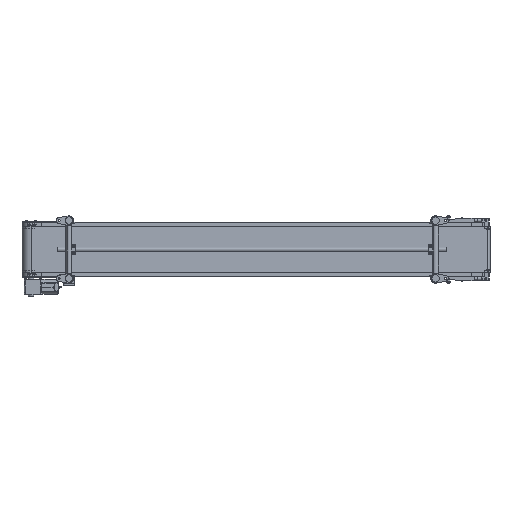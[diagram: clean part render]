
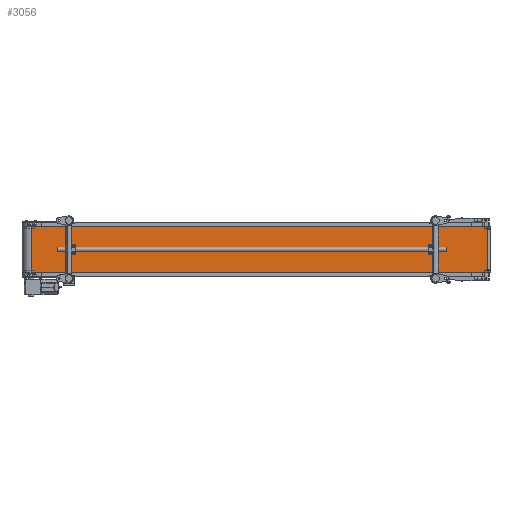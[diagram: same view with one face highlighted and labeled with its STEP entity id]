
A CAD part, front view. The second image highlights one B-rep face of the part: STEP entity #3056.
In plain terms, the highlighted planar face has unit normal (0.03, -1, 0).
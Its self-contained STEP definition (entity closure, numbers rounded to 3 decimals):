
#3056=ADVANCED_FACE('',(#16098),#16097,.F.);
#16097=PLANE('',#26417);
#16098=FACE_OUTER_BOUND('',#26418,.T.);
#26414=CARTESIAN_POINT('',(2994.638,-26.095,-160.));
#26415=DIRECTION('',(-0.03,1.,0.));
#26416=DIRECTION('',(-1.,-0.03,0.));
#26417=AXIS2_PLACEMENT_3D('',#26414,#26415,#26416);
#26418=EDGE_LOOP('',(#34206,#34207,#34208,#34209));
#34206=ORIENTED_EDGE('',*,*,#38792,.T.);
#34207=ORIENTED_EDGE('',*,*,#38799,.F.);
#34208=ORIENTED_EDGE('',*,*,#38786,.F.);
#34209=ORIENTED_EDGE('',*,*,#38800,.T.);
#38786=EDGE_CURVE('',#59542,#59527,#59549,.T.);
#38792=EDGE_CURVE('',#59591,#59583,#59592,.T.);
#38799=EDGE_CURVE('',#59527,#59583,#59639,.T.);
#38800=EDGE_CURVE('',#59542,#59591,#59645,.T.);
#59527=VERTEX_POINT('',#77245);
#59542=VERTEX_POINT('',#77255);
#59549=LINE('',#77260,#77261);
#59583=VERTEX_POINT('',#77281);
#59591=VERTEX_POINT('',#77287);
#59592=LINE('',#77288,#77289);
#59639=LINE('',#77317,#77318);
#59645=LINE('',#77320,#77321);
#77245=CARTESIAN_POINT('',(2984.642,-26.393,150.));
#77255=CARTESIAN_POINT('',(59.243,-113.824,150.));
#77260=CARTESIAN_POINT('',(59.243,-113.824,150.));
#77261=VECTOR('',#77262,2926.705);
#77262=DIRECTION('',(1.,0.03,0.));
#77281=CARTESIAN_POINT('',(2984.642,-26.393,-150.));
#77287=CARTESIAN_POINT('',(59.243,-113.824,-150.));
#77288=CARTESIAN_POINT('',(59.243,-113.824,-150.));
#77289=VECTOR('',#77290,2926.705);
#77290=DIRECTION('',(1.,0.03,0.));
#77317=CARTESIAN_POINT('',(2984.642,-26.393,150.));
#77318=VECTOR('',#77319,300.);
#77319=DIRECTION('',(0.,0.,-1.));
#77320=CARTESIAN_POINT('',(59.243,-113.824,150.));
#77321=VECTOR('',#77322,300.);
#77322=DIRECTION('',(0.,0.,-1.));
